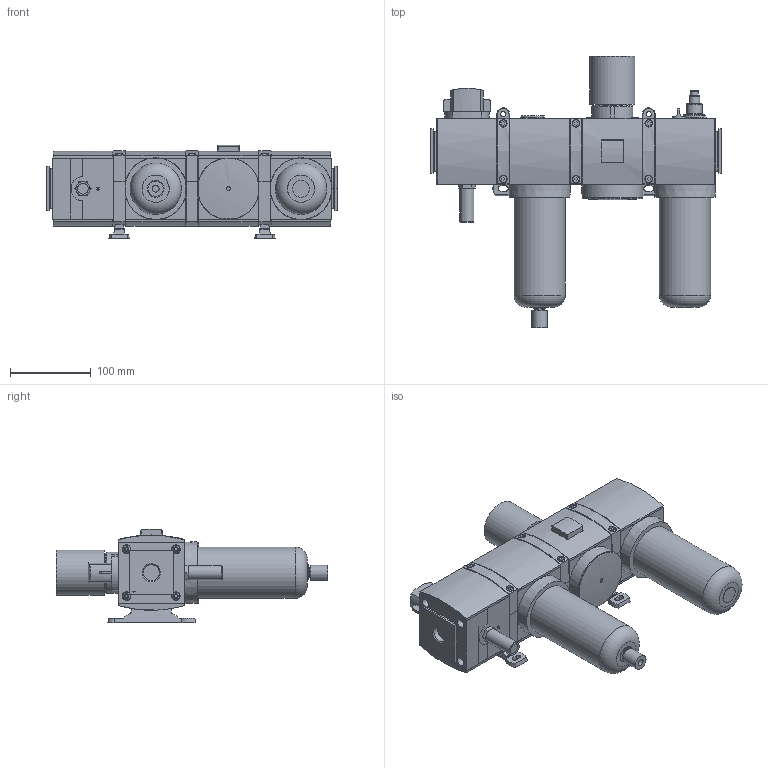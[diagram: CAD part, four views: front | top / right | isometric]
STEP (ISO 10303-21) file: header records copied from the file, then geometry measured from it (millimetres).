
FILE_DESCRIPTION( ( 'STEP AP214' ), '1' );
FILE_NAME( 'p:/temp/worker_265/temp/exporttempdir_3572_435_Dfhzs/format_0/07112020-200232_gen_30205.stp', '2020-02-07T19:11:34', ( '' ), ( '' ), ' ', 'PARTsolutions', ' ' );
FILE_SCHEMA( ( 'AUTOMOTIVE_DESIGN { 1 0 10303 214 1 1 1 1 }' ) );
Length unit declared in the file: millimetre
Products named in the file (19): 07112020-200232_gen_30205; _440562-004-004-F(L); _439489-001-0; _437742 KNOB-100_653; _653-M3MN; _440561-004-004-F(L); _G653ASLA0B00A00_LS; _439498-010-F(L); _439851-002; _507439-006-P; _653-440512-002; _G653ASLA0A00A00_LS; _439488-010-F(L); _439489-002-H; _653-438047-009; _503493-001; _510722-001-STANDARD_653; _503402-001; _500180-013-F(L)
Assembly tree (26 placements, depth 2):
  07112020-200232_gen_30205
    _440562-004-004-F(L)
    _439489-001-0  x7
    _437742 KNOB-100_653
    _653-M3MN
    _440561-004-004-F(L)
    _G653ASLA0B00A00_LS  x2
    _439498-010-F(L)
    _439851-002
    _507439-006-P  x2
    _653-440512-002
    _G653ASLA0A00A00_LS
    _439488-010-F(L)
    _439489-002-H
    _653-438047-009
    _503493-001
    _510722-001-STANDARD_653
    _503402-001
    _500180-013-F(L)
Bounding box: 360 x 335.95 x 115.36 mm (x, y, z)
Volume: 3868822.5 mm3; surface area: 512751.3 mm2
Topology: 26 solids, 27 shells, 1367 faces, 3327 edges, 2135 vertices
Faces by surface type: plane 956, cylinder 263, cone 105, torus 37, sphere 5, bspline 1
Full cylindrical faces by diameter (mm): 1.7 x2, 2.8 x2, 3 x2, 5.85 x4, 6.3 x4, 6.5 x2, 8.5 x6, 8.6 x1, 9.652 x1, 10 x5, 10.4 x1, 10.8 x4, 12 x4, 12.309 x1, 12.985 x1, 13 x2, 15.1 x1, 15.875 x1, 16.105 x1, 17.3 x1, 19 x1, 19.4 x1, 21.6 x1, 22.7 x1, 27 x1, 29.5 x1, 30 x2, 33.5 x2, 43 x1, 51 x1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
Entity records: 45223 total; most frequent: CARTESIAN_POINT 6868, DIRECTION 5903, ORIENTED_EDGE 5546, EDGE_CURVE 2773, AXIS2_PLACEMENT_3D 1979, LINE 1945, VECTOR 1945, VERTEX_POINT 1867
